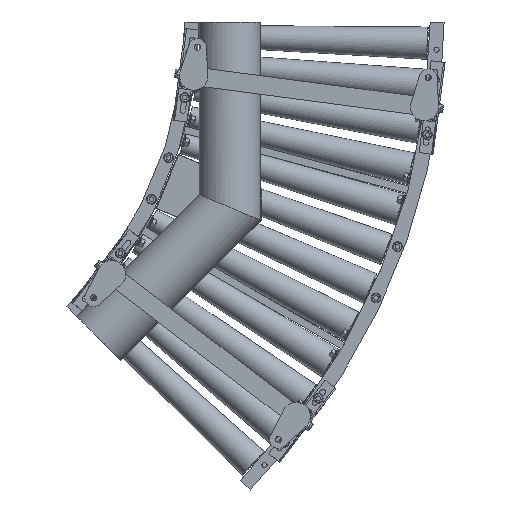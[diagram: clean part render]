
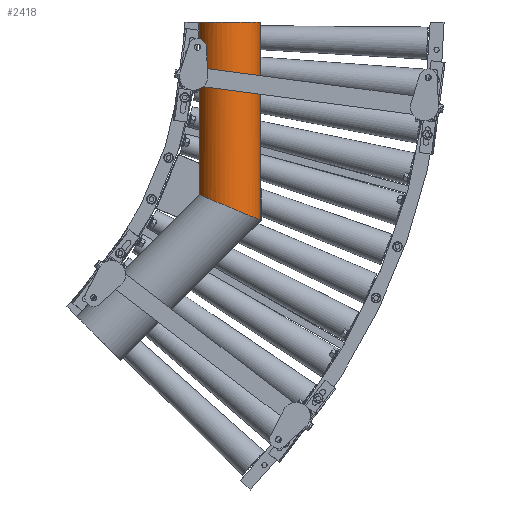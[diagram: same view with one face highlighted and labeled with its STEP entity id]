
A CAD part, front view. The second image highlights one B-rep face of the part: STEP entity #2418.
In plain terms, the highlighted cylindrical face has radius 67.024 mm (diameter 134.048 mm), a partial arc.
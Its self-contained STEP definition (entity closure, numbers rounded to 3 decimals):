
#2418=ADVANCED_FACE('',(#15234),#15233,.T.);
#15233=CYLINDRICAL_SURFACE('',#33595,67.024);
#15234=FACE_OUTER_BOUND('',#33596,.T.);
#33592=CARTESIAN_POINT('',(967.,-156.676,0.));
#33593=DIRECTION('',(0.,0.,1.));
#33594=DIRECTION('',(1.,0.,0.));
#33595=AXIS2_PLACEMENT_3D('',#33592,#33593,#33594);
#33596=EDGE_LOOP('',(#45129,#45130,#45131,#45132));
#45129=ORIENTED_EDGE('',*,*,#53818,.F.);
#45130=ORIENTED_EDGE('',*,*,#53825,.F.);
#45131=ORIENTED_EDGE('',*,*,#53829,.T.);
#45132=ORIENTED_EDGE('',*,*,#53819,.F.);
#53818=EDGE_CURVE('',#74084,#74057,#74091,.T.);
#53819=EDGE_CURVE('',#74057,#74097,#74098,.T.);
#53825=EDGE_CURVE('',#74137,#74084,#74138,.T.);
#53829=EDGE_CURVE('',#74137,#74097,#74163,.T.);
#74057=VERTEX_POINT('',#105999);
#74084=VERTEX_POINT('',#106014);
#74091=LINE('',#106018,#106019);
#74097=VERTEX_POINT('',#106021);
#74098=(BOUNDED_CURVE() B_SPLINE_CURVE(2,(#106022,#106023,#106024,#106025,#106026),.UNSPECIFIED.,.F.,.F.) B_SPLINE_CURVE_WITH_KNOTS((3,2,3),(0.147,1.571,2.994),.UNSPECIFIED.) CURVE() GEOMETRIC_REPRESENTATION_ITEM() RATIONAL_B_SPLINE_CURVE((1.,0.757,1.,0.757,1.)) REPRESENTATION_ITEM('') );
#74137=VERTEX_POINT('',#106046);
#74138=CIRCLE('',#106050,67.024);
#74163=LINE('',#106061,#106062);
#105999=CARTESIAN_POINT('',(1033.3,-166.5,-428.007));
#106014=CARTESIAN_POINT('',(1033.3,-166.5,0.));
#106018=CARTESIAN_POINT('',(1033.3,-166.5,0.));
#106019=VECTOR('',#106020,428.007);
#106020=DIRECTION('',(0.,0.,-1.));
#106021=CARTESIAN_POINT('',(900.7,-166.5,-373.082));
#106022=CARTESIAN_POINT('',(1033.3,-166.5,-428.007));
#106023=CARTESIAN_POINT('',(1024.825,-223.7,-424.496));
#106024=CARTESIAN_POINT('',(967.,-223.7,-400.545));
#106025=CARTESIAN_POINT('',(909.175,-223.7,-376.593));
#106026=CARTESIAN_POINT('',(900.7,-166.5,-373.082));
#106046=CARTESIAN_POINT('',(900.7,-166.5,0.));
#106047=CARTESIAN_POINT('',(967.,-156.676,0.));
#106048=DIRECTION('',(0.,0.,1.));
#106049=DIRECTION('',(-1.,0.,0.));
#106050=AXIS2_PLACEMENT_3D('',#106047,#106048,#106049);
#106061=CARTESIAN_POINT('',(900.7,-166.5,0.));
#106062=VECTOR('',#106063,373.082);
#106063=DIRECTION('',(0.,0.,-1.));
